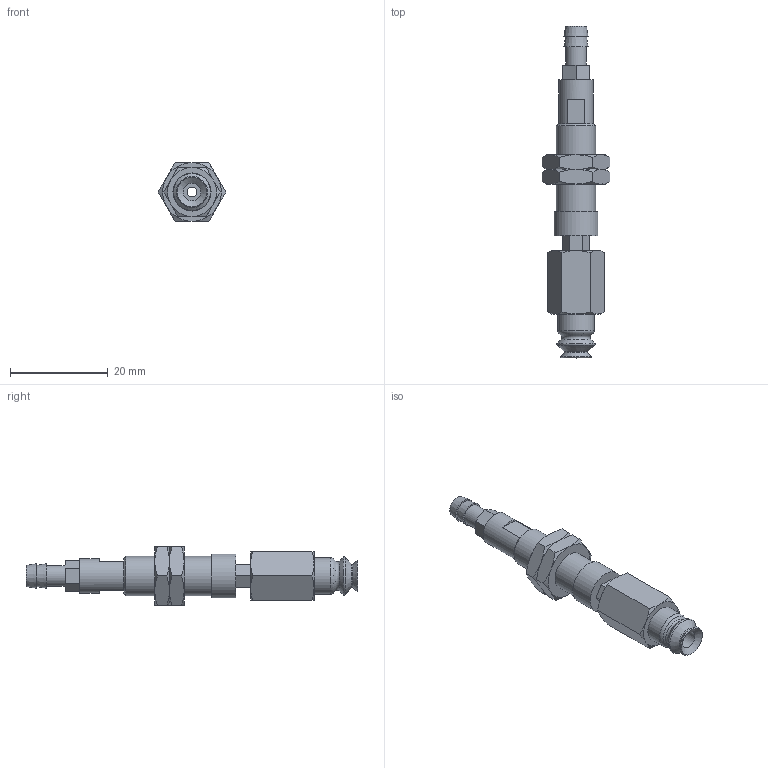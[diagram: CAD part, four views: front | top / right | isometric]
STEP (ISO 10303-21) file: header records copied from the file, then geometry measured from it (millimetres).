
FILE_DESCRIPTION(('STEP AP203'),'1');
FILE_NAME('-T.stp','2025-08-27T06:17:57',(' '),(' '),'Spatial InterOp 3D',' ',' ');
FILE_SCHEMA(('CONFIG_CONTROL_DESIGN'));
Length unit declared in the file: millimetre
Products named in the file (7): BNABPJTH-6-3-※-T; ADAPTER; NAPATH-10A-3--M; NAPJH-6-3-NUT; NAPJTH-6-3-FBODY; BPJG-6-※; T
Assembly tree (7 placements, depth 2):
  BNABPJTH-6-3-※-T
    ADAPTER
    NAPATH-10A-3--M
    NAPJH-6-3-NUT  x2
    NAPJTH-6-3-FBODY
    BPJG-6-※
    T
Bounding box: 13.86 x 68 x 12 mm (x, y, z)
Volume: 3461.9 mm3; surface area: 4301.7 mm2
Topology: 7 solids, 7 shells, 143 faces, 309 edges, 189 vertices
Faces by surface type: plane 63, cone 52, cylinder 17, torus 11
Full cylindrical faces by diameter (mm): 2 x2, 3 x1, 3.64 x1, 4 x2, 4.134 x1, 4.3 x1, 5 x1, 6 x2, 7 x1, 7.188 x2, 7.5 x1, 8 x1, 9 x1
Entity records: 3502 total; most frequent: CARTESIAN_POINT 774, DIRECTION 500, ORIENTED_EDGE 416, AXIS2_PLACEMENT_3D 212, EDGE_CURVE 208, EDGE_LOOP 182, VERTEX_POINT 150, FACE_OUTER_BOUND 147
